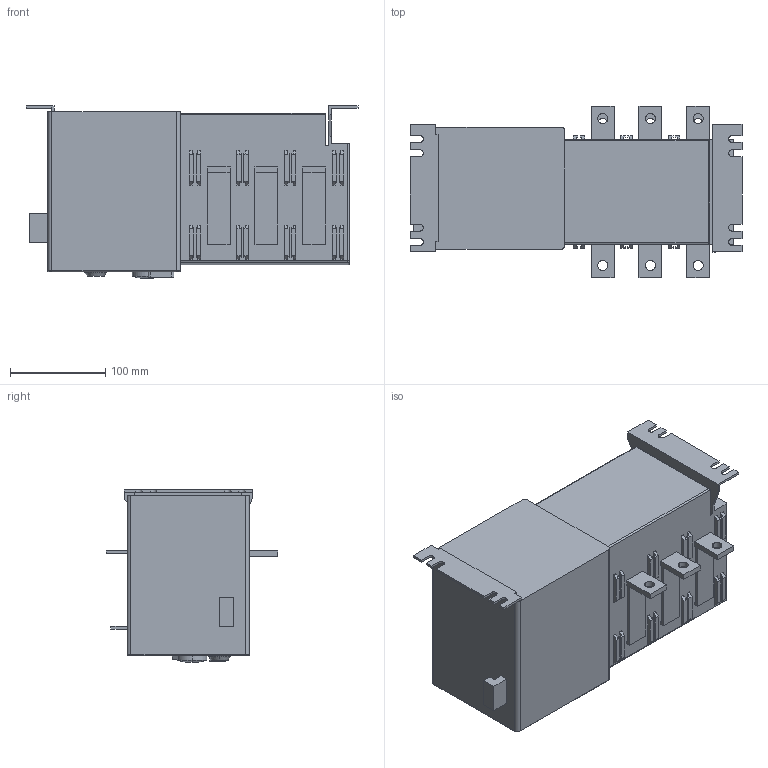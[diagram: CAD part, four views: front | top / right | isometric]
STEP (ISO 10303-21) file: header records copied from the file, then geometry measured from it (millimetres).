
FILE_DESCRIPTION((''),'2;1');
FILE_NAME('NH40-20031','2020-06-10T',('sft'),(''),'CREO PARAMETRIC BY PTC INC, 2014350','CREO PARAMETRIC BY PTC INC, 2014350','');
FILE_SCHEMA(('CONFIG_CONTROL_DESIGN'));
Length unit declared in the file: millimetre
Products named in the file (1): NH40-20031
Bounding box: 348 x 180 x 180.67 mm (x, y, z)
Volume: 6076970.1 mm3; surface area: 285704.1 mm2
Topology: 1 solids, 1 shells, 437 faces, 1140 edges, 750 vertices
Faces by surface type: plane 367, cylinder 55, torus 9, sphere 4, cone 2
Entity records: 13299 total; most frequent: CARTESIAN_POINT 2341, ORIENTED_EDGE 2280, DIRECTION 2141, EDGE_CURVE 1140, VECTOR 1009, LINE 1009, VERTEX_POINT 750, AXIS2_PLACEMENT_3D 566
